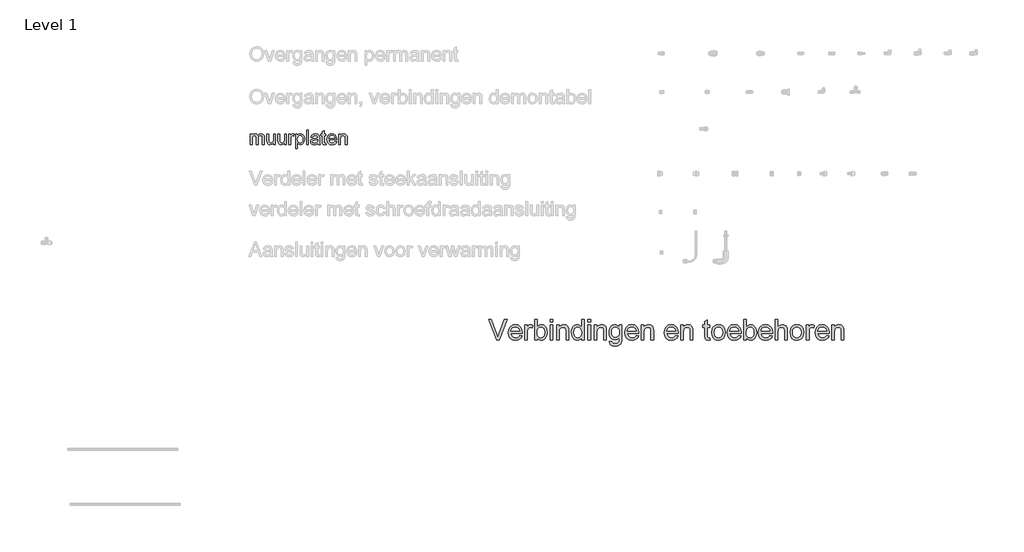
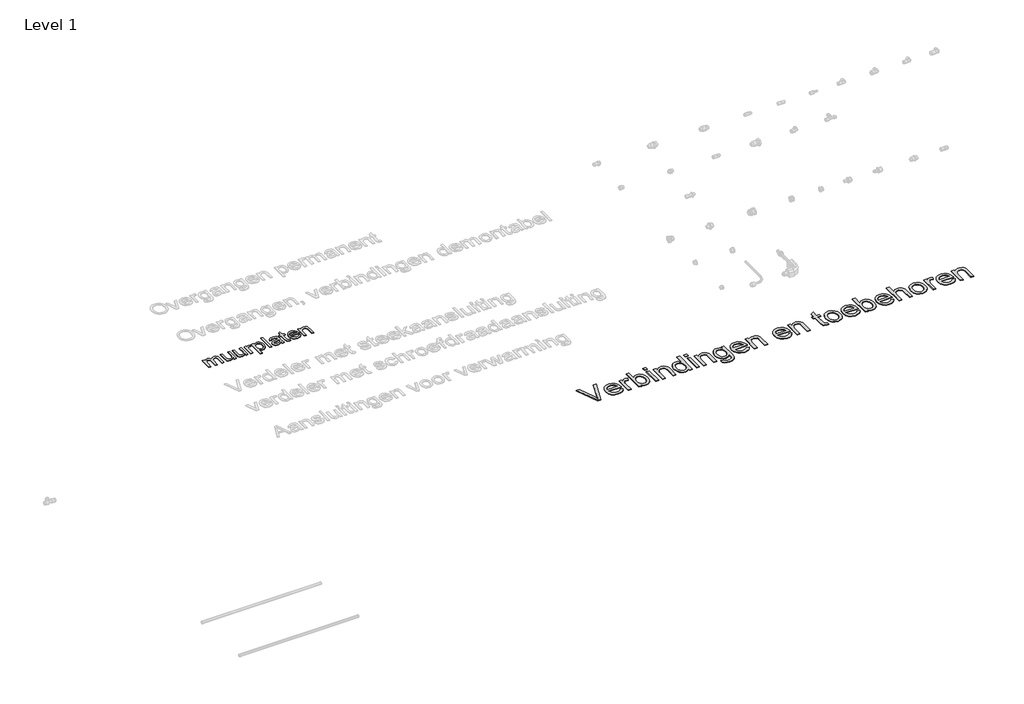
# One storey, part 5 of 9: 2 proxies.
"""IFC4 building model written with IfcOpenShell, lengths in millimetres."""

from ifc_helpers import new_model, si_unit, origin, origin_with_axes, place, context, project, spatial, polyline, outline, extrude, element, save

model = new_model("IFC4")

# Units and contexts
model_context = context("Model", 3, world=origin())
ifc_project = project(units=[si_unit("LENGTHUNIT", "METRE", prefix="MILLI")], contexts=[model_context])

# Site, building, storey
site = spatial("IfcSite", under=ifc_project)
building = spatial("IfcBuilding", under=site)
storey = spatial("IfcBuildingStorey", under=building, Name="Level 1", Elevation=0.0)

# Proxies
placement = place(None, origin())
element("IfcBuildingElementProxy", 1, Name="medium", ObjectType="medium", at=placement, inside=storey, context=model_context, shape_type="SweptSolid", body=[
    extrude(outline(polyline([(5878.7543239, 2853.1058024), (5798.8013036, 3054.0184227), (5825.6812147, 3054.0184227), (5879.1957823, 2909.2691204), (5890.0360384, 2876.6502501), (5900.7291418, 2909.2691204), (5954.3908621, 3054.0184227), (5981.2707732, 3054.0184227), (5904.7022673, 2853.1058024), (5878.7543239, 2853.1058024)])), origin_with_axes(), (0.0, 0.0, 1.0), 5.0),
    extrude(outline(polyline([(6104.7810217, 2897.0554381), (6129.40459, 2893.9161784), (6120.5325025, 2875.3626632), (6106.3751771, 2861.4935119), (6087.2514447, 2852.848285), (6063.4801364, 2849.9665428), (6034.0127886, 2854.9390811), (6011.338995, 2869.856696), (5996.8812326, 2893.7506315), (5992.0619784, 2925.6521319), (5996.9302835, 2958.6266214), (6011.5351987, 2983.2869778), (6033.902424, 2998.6644452), (6062.0576594, 3003.7902677), (6089.3361093, 2998.6767079), (6111.1331175, 2983.3360287), (6125.425333, 2958.7247233), (6130.1894049, 2925.7992847), (6130.0422521, 2919.030256), (6017.176056, 2919.030256), (6021.5231949, 2900.231486), (6031.6215556, 2886.4113857), (6046.195814, 2877.9133117), (6063.9706457, 2875.0806203), (6088.594214, 2880.3290701), (6097.7422129, 2887.134887), (6104.7810217, 2897.0554381)]), holes=[polyline([(6017.176056, 2944.1443335), (6105.0753273, 2944.1443335), (6101.6785503, 2957.4126108), (6095.0198861, 2966.9039663), (6080.3781827, 2975.7331342), (6061.9595575, 2978.6761901), (6045.0308544, 2976.3278767), (6031.0329444, 2969.2829365), (6021.3024657, 2958.301659), (6017.176056, 2944.1443335)])]), origin_with_axes(), (0.0, 0.0, 1.0), 5.0),
    extrude(outline(polyline([(6155.3034824, 2853.1058024), (6155.3034824, 3000.651008), (6177.2783003, 3000.651008), (6177.2783003, 2978.8233429), (6192.8764969, 2998.9342253), (6208.5727953, 3003.7902677), (6221.0807832, 3001.8527558), (6233.7849747, 2996.0402203), (6225.3972652, 2973.5258422), (6207.7389295, 2978.6761901), (6193.5386844, 2973.7220459), (6184.4887874, 2959.9877848), (6180.41756, 2930.655327), (6180.41756, 2853.1058024), (6155.3034824, 2853.1058024)])), origin_with_axes(), (0.0, 0.0, 1.0), 5.0),
    extrude(outline(polyline([(6274.5953507, 2853.1058024), (6249.4812732, 2853.1058024), (6249.4812732, 3054.0184227), (6274.5953507, 3054.0184227), (6274.5953507, 2979.510056), (6292.1801101, 2997.7202147), (6302.5727765, 3002.2727544), (6314.0323006, 3003.7902677), (6339.1954291, 2998.3210887), (6358.7177003, 2982.9436213), (6370.7106533, 2959.0312916), (6375.0516609, 2929.0856972), (6370.5573692, 2895.5593847), (6357.074494, 2870.6169854), (6337.2885741, 2855.1291534), (6313.8851478, 2849.9665428), (6302.0485446, 2851.6312088), (6291.5547107, 2856.6252069), (6282.4036461, 2864.948537), (6274.5953507, 2876.6011992), (6274.5953507, 2853.1058024)]), holes=[polyline([(6274.5953507, 2927.9084748), (6276.3121334, 2906.9637265), (6281.4624813, 2892.788007), (6294.620394, 2879.507467), (6311.7269068, 2875.0806203), (6326.2214574, 2878.3425073), (6338.6068179, 2888.1281684), (6347.104892, 2904.3762898), (6349.9375833, 2927.025558), (6347.2213879, 2950.00592), (6339.0728017, 2966.0701004), (6327.0737173, 2975.5246677), (6312.8060273, 2978.6761901), (6298.3114767, 2975.4143031), (6285.9261162, 2965.628642), (6277.4280421, 2949.6748262), (6274.5953507, 2927.9084748)])]), origin_with_axes(), (0.0, 0.0, 1.0), 5.0),
    extrude(outline(polyline([(6403.3049981, 3028.9043452), (6403.3049981, 3054.0184227), (6428.4190756, 3054.0184227), (6428.4190756, 3028.9043452), (6403.3049981, 3028.9043452)])), origin_with_axes(), (0.0, 0.0, 1.0), 5.0),
    extrude(outline(polyline([(6403.3049981, 2853.1058024), (6403.3049981, 3000.651008), (6428.4190756, 3000.651008), (6428.4190756, 2853.1058024), (6403.3049981, 2853.1058024)])), origin_with_axes(), (0.0, 0.0, 1.0), 5.0),
    extrude(outline(polyline([(6466.0901919, 2853.1058024), (6466.0901919, 3000.651008), (6491.2042695, 3000.651008), (6491.2042695, 2980.0496162), (6499.9292041, 2990.4361512), (6510.4077096, 2997.8551048), (6522.639786, 3002.306477), (6536.6254331, 3003.7902677), (6560.3415591, 2999.0078017), (6576.5283669, 2986.450763), (6584.0576851, 2967.9830868), (6585.3820602, 2943.7028751), (6585.3820602, 2853.1058024), (6560.2679827, 2853.1058024), (6560.2679827, 2940.3183608), (6557.3739777, 2962.5384333), (6547.1468582, 2974.2861317), (6529.9054554, 2978.6761901), (6515.1963069, 2976.2113808), (6502.6576623, 2968.8169527), (6494.0676177, 2954.5308685), (6491.2042695, 2931.391091), (6491.2042695, 2853.1058024), (6466.0901919, 2853.1058024)])), origin_with_axes(), (0.0, 0.0, 1.0), 5.0),
    extrude(outline(polyline([(6710.9524479, 2853.1058024), (6710.9524479, 2876.7974029), (6703.4384582, 2865.0589016), (6694.3364445, 2856.6742578), (6683.6464068, 2851.6434715), (6671.3683452, 2849.9665428), (6655.1324865, 2852.3945639), (6640.2700539, 2859.6786274), (6627.6884897, 2871.3098298), (6618.2952361, 2886.7792677), (6612.4459124, 2905.4615417), (6610.4961378, 2926.7312524), (6612.2926282, 2947.7373143), (6617.6820994, 2966.7077626), (6626.6584201, 2982.5634765), (6639.2154589, 2994.2253358), (6654.4028539, 3001.3990347), (6671.2702434, 3003.7902677), (6683.557502, 3002.0796164), (6694.4222836, 2996.9476626), (6710.9524479, 2979.1666995), (6710.9524479, 3054.0184227), (6736.0665255, 3054.0184227), (6736.0665255, 2853.1058024), (6710.9524479, 2853.1058024)]), holes=[polyline([(6635.6102153, 2926.8293543), (6638.4429067, 2904.1126411), (6646.9409808, 2887.9564901), (6659.2895531, 2878.2995877), (6673.6737391, 2875.0806203), (6688.0517937, 2878.1524349), (6700.0876663, 2887.3678789), (6708.2362525, 2902.8986305), (6710.9524479, 2924.9163679), (6708.1872016, 2948.9881131), (6699.8914626, 2965.677693), (6687.5490217, 2975.4265658), (6672.6436695, 2978.6761901), (6658.1123307, 2975.5553245), (6646.2052168, 2966.1927278), (6638.2589657, 2950.1101532), (6635.6102153, 2926.8293543)])]), origin_with_axes(), (0.0, 0.0, 1.0), 5.0),
    extrude(outline(polyline([(6773.7376418, 3028.9043452), (6773.7376418, 3054.0184227), (6798.8517193, 3054.0184227), (6798.8517193, 3028.9043452), (6773.7376418, 3028.9043452)])), origin_with_axes(), (0.0, 0.0, 1.0), 5.0),
    extrude(outline(polyline([(6773.7376418, 2853.1058024), (6773.7376418, 3000.651008), (6798.8517193, 3000.651008), (6798.8517193, 2853.1058024), (6773.7376418, 2853.1058024)])), origin_with_axes(), (0.0, 0.0, 1.0), 5.0),
    extrude(outline(polyline([(6836.5228356, 2853.1058024), (6836.5228356, 3000.651008), (6861.6369132, 3000.651008), (6861.6369132, 2980.0496162), (6870.3618478, 2990.4361512), (6880.8403533, 2997.8551048), (6893.0724296, 3002.306477), (6907.0580768, 3003.7902677), (6930.7742028, 2999.0078017), (6946.9610106, 2986.450763), (6954.4903287, 2967.9830868), (6955.8147039, 2943.7028751), (6955.8147039, 2853.1058024), (6930.7006264, 2853.1058024), (6930.7006264, 2940.3183608), (6927.8066214, 2962.5384333), (6917.5795019, 2974.2861317), (6900.338099, 2978.6761901), (6885.6289506, 2976.2113808), (6873.0903059, 2968.8169527), (6864.5002614, 2954.5308685), (6861.6369132, 2931.391091), (6861.6369132, 2853.1058024), (6836.5228356, 2853.1058024)])), origin_with_axes(), (0.0, 0.0, 1.0), 5.0),
    extrude(outline(polyline([(6984.0680411, 2840.5487637), (7009.1821187, 2837.409504), (7011.9534964, 2829.5613548), (7017.3245735, 2824.1657522), (7027.8827868, 2819.9718974), (7041.7028871, 2818.5739458), (7056.4426923, 2820.1558384), (7067.4055758, 2824.9015161), (7075.0084704, 2832.5044107), (7079.668309, 2842.6579538), (7081.3850916, 2871.9413606), (7063.7022304, 2857.814692), (7042.1443455, 2853.1058024), (7016.2515844, 2858.5872442), (6996.943911, 2875.0315694), (6984.9325638, 2899.1401028), (6980.9287815, 2927.6141692), (6982.7252719, 2947.8905985), (6988.1147431, 2966.5360843), (6996.9071228, 2982.336616), (7008.9123386, 2994.078183), (7023.7195889, 3001.3622465), (7040.9180721, 3003.7902677), (7063.3220856, 2998.2965632), (7081.3850916, 2981.8154498), (7081.3850916, 3000.651008), (7106.4991691, 3000.651008), (7106.4991691, 2873.2657358), (7104.7823865, 2843.8535703), (7099.6320386, 2824.4845832), (7090.7599511, 2811.6393702), (7077.8779499, 2801.7985268), (7061.2680778, 2795.5445329), (7041.2123777, 2793.4598683), (7017.8457397, 2796.3967929), (6999.4455085, 2805.2075667), (6987.6426279, 2819.9167151), (6984.0680411, 2840.5487637)]), holes=[polyline([(7006.042859, 2929.3309518), (7008.7222662, 2906.2954076), (7016.7604878, 2890.4580877), (7028.8454113, 2881.2794319), (7043.6649244, 2878.21988), (7058.3740728, 2881.2610378), (7070.52031, 2890.3845113), (7078.6688962, 2906.0194961), (7081.3850916, 2928.5951879), (7078.5891884, 2950.3676706), (7070.201479, 2966.045575), (7057.8774321, 2975.5185363), (7043.2725169, 2978.6761901), (7028.9312505, 2975.5675873), (7016.9076406, 2966.2417787), (7008.7590544, 2950.7968663), (7006.042859, 2929.3309518)])]), origin_with_axes(), (0.0, 0.0, 1.0), 5.0),
    extrude(outline(polyline([(7247.4715497, 2897.0554381), (7272.0951179, 2893.9161784), (7263.2230305, 2875.3626632), (7249.065705, 2861.4935119), (7229.9419726, 2852.848285), (7206.1706644, 2849.9665428), (7176.7033166, 2854.9390811), (7154.0295229, 2869.856696), (7139.5717605, 2893.7506315), (7134.7525064, 2925.6521319), (7139.6208114, 2958.6266214), (7154.2257267, 2983.2869778), (7176.592952, 2998.6644452), (7204.7481873, 3003.7902677), (7232.0266373, 2998.6767079), (7253.8236455, 2983.3360287), (7268.115861, 2958.7247233), (7272.8799328, 2925.7992847), (7272.73278, 2919.030256), (7159.8665839, 2919.030256), (7164.2137228, 2900.231486), (7174.3120836, 2886.4113857), (7188.886342, 2877.9133117), (7206.6611737, 2875.0806203), (7231.2847419, 2880.3290701), (7240.4327409, 2887.134887), (7247.4715497, 2897.0554381)]), holes=[polyline([(7159.8665839, 2944.1443335), (7247.7658553, 2944.1443335), (7244.3690782, 2957.4126108), (7237.7104141, 2966.9039663), (7223.0687107, 2975.7331342), (7204.6500855, 2978.6761901), (7187.7213823, 2976.3278767), (7173.7234724, 2969.2829365), (7163.9929936, 2958.301659), (7159.8665839, 2944.1443335)])]), origin_with_axes(), (0.0, 0.0, 1.0), 5.0),
    extrude(outline(polyline([(7297.9940104, 2853.1058024), (7297.9940104, 3000.651008), (7323.1080879, 3000.651008), (7323.1080879, 2980.0496162), (7331.8330226, 2990.4361512), (7342.3115281, 2997.8551048), (7354.5436044, 3002.306477), (7368.5292516, 3003.7902677), (7392.2453775, 2999.0078017), (7408.4321853, 2986.450763), (7415.9615035, 2967.9830868), (7417.2858787, 2943.7028751), (7417.2858787, 2853.1058024), (7392.1718011, 2853.1058024), (7392.1718011, 2940.3183608), (7389.2777961, 2962.5384333), (7379.0506766, 2974.2861317), (7361.8092738, 2978.6761901), (7347.1001254, 2976.2113808), (7334.5614807, 2968.8169527), (7325.9714361, 2954.5308685), (7323.1080879, 2931.391091), (7323.1080879, 2853.1058024), (7297.9940104, 2853.1058024)])), origin_with_axes(), (0.0, 0.0, 1.0), 5.0),
    extrude(outline(polyline([(7633.6004918, 2897.0554381), (7658.22406, 2893.9161784), (7649.3519726, 2875.3626632), (7635.1946471, 2861.4935119), (7616.0709148, 2852.848285), (7592.2996065, 2849.9665428), (7562.8322587, 2854.9390811), (7540.1584651, 2869.856696), (7525.7007026, 2893.7506315), (7520.8814485, 2925.6521319), (7525.7497536, 2958.6266214), (7540.3546688, 2983.2869778), (7562.7218941, 2998.6644452), (7590.8771295, 3003.7902677), (7618.1555794, 2998.6767079), (7639.9525876, 2983.3360287), (7654.2448031, 2958.7247233), (7659.008875, 2925.7992847), (7658.8617222, 2919.030256), (7545.995526, 2919.030256), (7550.342665, 2900.231486), (7560.4410257, 2886.4113857), (7575.0152841, 2877.9133117), (7592.7901158, 2875.0806203), (7617.413684, 2880.3290701), (7626.561683, 2887.134887), (7633.6004918, 2897.0554381)]), holes=[polyline([(7545.995526, 2944.1443335), (7633.8947974, 2944.1443335), (7630.4980203, 2957.4126108), (7623.8393562, 2966.9039663), (7609.1976528, 2975.7331342), (7590.7790276, 2978.6761901), (7573.8503245, 2976.3278767), (7559.8524145, 2969.2829365), (7550.1219358, 2958.301659), (7545.995526, 2944.1443335)])]), origin_with_axes(), (0.0, 0.0, 1.0), 5.0),
    extrude(outline(polyline([(7684.1229525, 2853.1058024), (7684.1229525, 3000.651008), (7709.23703, 3000.651008), (7709.23703, 2980.0496162), (7717.9619647, 2990.4361512), (7728.4404702, 2997.8551048), (7740.6725465, 3002.306477), (7754.6581937, 3003.7902677), (7778.3743197, 2999.0078017), (7794.5611275, 2986.450763), (7802.0904456, 2967.9830868), (7803.4148208, 2943.7028751), (7803.4148208, 2853.1058024), (7778.3007433, 2853.1058024), (7778.3007433, 2940.3183608), (7775.4067382, 2962.5384333), (7765.1796188, 2974.2861317), (7747.9382159, 2978.6761901), (7733.2290675, 2976.2113808), (7720.6904228, 2968.8169527), (7712.1003782, 2954.5308685), (7709.23703, 2931.391091), (7709.23703, 2853.1058024), (7684.1229525, 2853.1058024)])), origin_with_axes(), (0.0, 0.0, 1.0), 5.0),
    extrude(outline(polyline([(7969.7955845, 2874.0505507), (7972.9348442, 2852.3700385), (7954.148337, 2849.9665428), (7933.1054868, 2854.135872), (7922.6085872, 2865.07423), (7919.5674294, 2893.5728219), (7919.5674294, 2975.5369304), (7900.7318713, 2975.5369304), (7900.7318713, 3000.651008), (7919.5674294, 3000.651008), (7919.5674294, 3036.5072398), (7944.681507, 3051.2715705), (7944.681507, 3000.651008), (7969.7955845, 3000.651008), (7969.7955845, 2975.5369304), (7944.681507, 2975.5369304), (7944.681507, 2894.3085859), (7946.0058821, 2881.3591397), (7950.2978387, 2876.7728775), (7958.8572265, 2875.0806203), (7969.7955845, 2874.0505507)])), origin_with_axes(), (0.0, 0.0, 1.0), 5.0),
    extrude(outline(polyline([(7988.6311426, 2926.8784052), (7994.0635334, 2962.4525941), (8000.8540219, 2976.2757601), (8010.3607058, 2987.4563071), (8030.4961137, 2999.7067775), (8054.6046471, 3003.7902677), (8080.9879175, 2998.8177294), (8102.0614245, 2983.9001145), (8115.8753934, 2960.2146453), (8120.4800497, 2928.9385444), (8118.444436, 2903.5669494), (8112.3375949, 2884.2531447), (8102.337336, 2869.7892509), (8088.6214689, 2858.9673889), (8072.3304279, 2852.2167543), (8054.6046471, 2849.9665428), (8027.9025456, 2854.920687), (8006.8535641, 2869.7831196), (7993.186748, 2893.9652294), (7988.6311426, 2926.8784052)]), holes=[polyline([(8013.7452202, 2926.9274561), (8016.6514879, 2904.1984802), (8025.3702912, 2888.0055411), (8038.4914157, 2878.3118505), (8054.6046471, 2875.0806203), (8070.6443021, 2878.3302446), (8083.7409011, 2888.0791175), (8092.4597044, 2904.4866544), (8095.3659722, 2927.7122711), (8092.4413103, 2949.7790594), (8083.6673247, 2965.7512694), (8070.5523316, 2975.4449599), (8054.6046471, 2978.6761901), (8038.4914157, 2975.4572227), (8025.3702912, 2965.8003203), (8016.6514879, 2949.6441693), (8013.7452202, 2926.9274561)])]), origin_with_axes(), (0.0, 0.0, 1.0), 5.0),
    extrude(outline(polyline([(8252.0346512, 2897.0554381), (8276.6582194, 2893.9161784), (8267.786132, 2875.3626632), (8253.6288065, 2861.4935119), (8234.5050741, 2852.848285), (8210.7337659, 2849.9665428), (8181.2664181, 2854.9390811), (8158.5926244, 2869.856696), (8144.134862, 2893.7506315), (8139.3156079, 2925.6521319), (8144.1839129, 2958.6266214), (8158.7888281, 2983.2869778), (8181.1560535, 2998.6644452), (8209.3112888, 3003.7902677), (8236.5897388, 2998.6767079), (8258.386747, 2983.3360287), (8272.6789625, 2958.7247233), (8277.4430343, 2925.7992847), (8277.2958815, 2919.030256), (8164.4296854, 2919.030256), (8168.7768243, 2900.231486), (8178.8751851, 2886.4113857), (8193.4494435, 2877.9133117), (8211.2242752, 2875.0806203), (8235.8478434, 2880.3290701), (8244.9958424, 2887.134887), (8252.0346512, 2897.0554381)]), holes=[polyline([(8164.4296854, 2944.1443335), (8252.3289568, 2944.1443335), (8248.9321797, 2957.4126108), (8242.2735156, 2966.9039663), (8227.6318122, 2975.7331342), (8209.213187, 2978.6761901), (8192.2844838, 2976.3278767), (8178.2865739, 2969.2829365), (8168.5560951, 2958.301659), (8164.4296854, 2944.1443335)])]), origin_with_axes(), (0.0, 0.0, 1.0), 5.0),
    extrude(outline(polyline([(8327.6711894, 2853.1058024), (8302.5571119, 2853.1058024), (8302.5571119, 3054.0184227), (8327.6711894, 3054.0184227), (8327.6711894, 2979.510056), (8345.2559488, 2997.7202147), (8355.6486151, 3002.2727544), (8367.1081393, 3003.7902677), (8392.2712678, 2998.3210887), (8411.793539, 2982.9436213), (8423.786492, 2959.0312916), (8428.1274996, 2929.0856972), (8423.6332078, 2895.5593847), (8410.1503327, 2870.6169854), (8390.3644127, 2855.1291534), (8366.9609865, 2849.9665428), (8355.1243833, 2851.6312088), (8344.6305494, 2856.6252069), (8335.4794847, 2864.948537), (8327.6711894, 2876.6011992), (8327.6711894, 2853.1058024)]), holes=[polyline([(8327.6711894, 2927.9084748), (8329.387972, 2906.9637265), (8334.53832, 2892.788007), (8347.6962327, 2879.507467), (8364.8027454, 2875.0806203), (8379.2972961, 2878.3425073), (8391.6826566, 2888.1281684), (8400.1807306, 2904.3762898), (8403.013422, 2927.025558), (8400.2972266, 2950.00592), (8392.1486404, 2966.0701004), (8380.149556, 2975.5246677), (8365.881866, 2978.6761901), (8351.3873154, 2975.4143031), (8339.0019549, 2965.628642), (8330.5038808, 2949.6748262), (8327.6711894, 2927.9084748)])]), origin_with_axes(), (0.0, 0.0, 1.0), 5.0),
    extrude(outline(polyline([(8559.682101, 2897.0554381), (8584.3056692, 2893.9161784), (8575.4335818, 2875.3626632), (8561.2762563, 2861.4935119), (8542.152524, 2852.848285), (8518.3812157, 2849.9665428), (8488.9138679, 2854.9390811), (8466.2400743, 2869.856696), (8451.7823118, 2893.7506315), (8446.9630577, 2925.6521319), (8451.8313628, 2958.6266214), (8466.436278, 2983.2869778), (8488.8035033, 2998.6644452), (8516.9587387, 3003.7902677), (8544.2371886, 2998.6767079), (8566.0341968, 2983.3360287), (8580.3264123, 2958.7247233), (8585.0904842, 2925.7992847), (8584.9433314, 2919.030256), (8472.0771352, 2919.030256), (8476.4242742, 2900.231486), (8486.5226349, 2886.4113857), (8501.0968933, 2877.9133117), (8518.871725, 2875.0806203), (8543.4952932, 2880.3290701), (8552.6432922, 2887.134887), (8559.682101, 2897.0554381)]), holes=[polyline([(8472.0771352, 2944.1443335), (8559.9764066, 2944.1443335), (8556.5796295, 2957.4126108), (8549.9209654, 2966.9039663), (8535.279262, 2975.7331342), (8516.8606368, 2978.6761901), (8499.9319336, 2976.3278767), (8485.9340237, 2969.2829365), (8476.203545, 2958.301659), (8472.0771352, 2944.1443335)])]), origin_with_axes(), (0.0, 0.0, 1.0), 5.0),
    extrude(outline(polyline([(8610.2045617, 2853.1058024), (8610.2045617, 3054.0184227), (8635.3186392, 3054.0184227), (8635.3186392, 2980.1477181), (8654.9022241, 2997.8796303), (8679.0230203, 3003.7902677), (8694.1920212, 3002.1777183), (8707.2273066, 2997.34007), (8717.4912142, 2989.6574677), (8724.3460821, 2979.510056), (8728.208843, 2965.5673284), (8729.49643, 2946.4987783), (8729.49643, 2853.1058024), (8704.3823525, 2853.1058024), (8704.3823525, 2943.8990789), (8702.383527, 2959.6199028), (8696.3870504, 2970.3865825), (8686.7240167, 2976.6037882), (8673.7255195, 2978.6761901), (8653.1486533, 2973.0843838), (8644.8958338, 2966.4992961), (8639.4143921, 2957.9276456), (8635.3186392, 2931.4891929), (8635.3186392, 2853.1058024), (8610.2045617, 2853.1058024)])), origin_with_axes(), (0.0, 0.0, 1.0), 5.0),
    extrude(outline(polyline([(8757.7497672, 2926.8784052), (8763.182158, 2962.4525941), (8769.9726465, 2976.2757601), (8779.4793304, 2987.4563071), (8799.6147383, 2999.7067775), (8823.7232717, 3003.7902677), (8850.1065421, 2998.8177294), (8871.1800491, 2983.9001145), (8884.994018, 2960.2146453), (8889.5986743, 2928.9385444), (8887.5630606, 2903.5669494), (8881.4562195, 2884.2531447), (8871.4559606, 2869.7892509), (8857.7400935, 2858.9673889), (8841.4490525, 2852.2167543), (8823.7232717, 2849.9665428), (8797.0211702, 2854.920687), (8775.9721887, 2869.7831196), (8762.3053726, 2893.9652294), (8757.7497672, 2926.8784052)]), holes=[polyline([(8782.8638448, 2926.9274561), (8785.7701125, 2904.1984802), (8794.4889158, 2888.0055411), (8807.6100403, 2878.3118505), (8823.7232717, 2875.0806203), (8839.7629267, 2878.3302446), (8852.8595257, 2888.0791175), (8861.578329, 2904.4866544), (8864.4845968, 2927.7122711), (8861.5599349, 2949.7790594), (8852.7859493, 2965.7512694), (8839.6709562, 2975.4449599), (8823.7232717, 2978.6761901), (8807.6100403, 2975.4572227), (8794.4889158, 2965.8003203), (8785.7701125, 2949.6441693), (8782.8638448, 2926.9274561)])]), origin_with_axes(), (0.0, 0.0, 1.0), 5.0),
    extrude(outline(polyline([(8917.8520115, 2853.1058024), (8917.8520115, 3000.651008), (8939.8268294, 3000.651008), (8939.8268294, 2978.8233429), (8955.425026, 2998.9342253), (8971.1213244, 3003.7902677), (8983.6293123, 3001.8527558), (8996.3335038, 2996.0402203), (8987.9457943, 2973.5258422), (8970.2874586, 2978.6761901), (8956.0872136, 2973.7220459), (8947.0373165, 2959.9877848), (8942.9660891, 2930.655327), (8942.9660891, 2853.1058024), (8917.8520115, 2853.1058024)])), origin_with_axes(), (0.0, 0.0, 1.0), 5.0),
    extrude(outline(polyline([(9115.3310665, 2897.0554381), (9139.9546348, 2893.9161784), (9131.0825473, 2875.3626632), (9116.9252219, 2861.4935119), (9097.8014895, 2852.848285), (9074.0301812, 2849.9665428), (9044.5628334, 2854.9390811), (9021.8890398, 2869.856696), (9007.4312774, 2893.7506315), (9002.6120232, 2925.6521319), (9007.4803283, 2958.6266214), (9022.0852435, 2983.2869778), (9044.4524688, 2998.6644452), (9072.6077042, 3003.7902677), (9099.8861541, 2998.6767079), (9121.6831623, 2983.3360287), (9135.9753778, 2958.7247233), (9140.7394497, 2925.7992847), (9140.5922969, 2919.030256), (9027.7261008, 2919.030256), (9032.0732397, 2900.231486), (9042.1716004, 2886.4113857), (9056.7458588, 2877.9133117), (9074.5206905, 2875.0806203), (9099.1442588, 2880.3290701), (9108.2922577, 2887.134887), (9115.3310665, 2897.0554381)]), holes=[polyline([(9027.7261008, 2944.1443335), (9115.6253721, 2944.1443335), (9112.228595, 2957.4126108), (9105.5699309, 2966.9039663), (9090.9282275, 2975.7331342), (9072.5096023, 2978.6761901), (9055.5808992, 2976.3278767), (9041.5829892, 2969.2829365), (9031.8525105, 2958.301659), (9027.7261008, 2944.1443335)])]), origin_with_axes(), (0.0, 0.0, 1.0), 5.0),
    extrude(outline(polyline([(9165.8535272, 2853.1058024), (9165.8535272, 3000.651008), (9190.9676047, 3000.651008), (9190.9676047, 2980.0496162), (9199.6925394, 2990.4361512), (9210.1710449, 2997.8551048), (9222.4031212, 3002.306477), (9236.3887684, 3003.7902677), (9260.1048944, 2999.0078017), (9276.2917022, 2986.450763), (9283.8210203, 2967.9830868), (9285.1453955, 2943.7028751), (9285.1453955, 2853.1058024), (9260.031318, 2853.1058024), (9260.031318, 2940.3183608), (9257.1373129, 2962.5384333), (9246.9101935, 2974.2861317), (9229.6687906, 2978.6761901), (9214.9596422, 2976.2113808), (9202.4209975, 2968.8169527), (9193.8309529, 2954.5308685), (9190.9676047, 2931.391091), (9190.9676047, 2853.1058024), (9165.8535272, 2853.1058024)])), origin_with_axes(), (0.0, 0.0, 1.0), 5.0),
])
element("IfcBuildingElementProxy", 2, Name="small", ObjectType="small", at=placement, inside=storey, context=model_context, shape_type="SweptSolid", body=[
    extrude(outline(polyline([(3460.9935013, 4772.8496905), (3460.9935013, 4876.1313344), (3478.5733555, 4876.1313344), (3478.5733555, 4859.1351862), (3490.6595054, 4873.0582934), (3507.8616675, 4878.3288161), (3525.4758574, 4872.9552865), (3535.1585115, 4857.8991027), (3548.8756048, 4873.2213878), (3566.1979417, 4878.3288161), (3579.4128761, 4876.2042976), (3589.1856613, 4869.830742), (3595.2244443, 4859.0364712), (3597.2373719, 4843.6498067), (3597.2373719, 4772.8496905), (3579.6575176, 4772.8496905), (3579.6575176, 4836.0959631), (3578.0265741, 4850.7744547), (3572.1208418, 4858.0021096), (3562.0776634, 4860.7489619), (3552.5538116, 4858.9892596), (3544.7896621, 4853.710153), (3539.6264383, 4844.5511176), (3537.9053637, 4831.1516291), (3537.9053637, 4772.8496905), (3520.3255095, 4772.8496905), (3520.3255095, 4838.0530953), (3516.2567346, 4855.0835791), (3510.8874969, 4859.3326162), (3502.9173334, 4860.7489619), (3489.904121, 4856.97204), (3481.2515365, 4845.9159598), (3478.5733555, 4824.9368759), (3478.5733555, 4772.8496905), (3460.9935013, 4772.8496905)])), origin_with_axes(), (0.0, 0.0, 1.0), 5.0),
    extrude(outline(polyline([(3689.5316069, 4772.8496905), (3689.5316069, 4790.601223), (3675.7630101, 4775.6394623), (3657.8054636, 4770.6522087), (3641.2728467, 4774.1544453), (3629.87341, 4782.9443724), (3624.6372229, 4795.8889136), (3623.6071533, 4812.2326843), (3623.6071533, 4876.1313344), (3641.1870076, 4876.1313344), (3641.1870076, 4820.5075767), (3642.2514128, 4802.5843659), (3649.2043826, 4792.0604883), (3662.3034341, 4788.232063), (3676.9819257, 4792.1463274), (3686.6817477, 4802.8075476), (3689.5316069, 4822.3960376), (3689.5316069, 4876.1313344), (3707.1114611, 4876.1313344), (3707.1114611, 4772.8496905), (3689.5316069, 4772.8496905)])), origin_with_axes(), (0.0, 0.0, 1.0), 5.0),
    extrude(outline(polyline([(3797.2082143, 4772.8496905), (3797.2082143, 4790.601223), (3783.4396175, 4775.6394623), (3765.482071, 4770.6522087), (3748.9494542, 4774.1544453), (3737.5500174, 4782.9443724), (3732.3138304, 4795.8889136), (3731.2837608, 4812.2326843), (3731.2837608, 4876.1313344), (3748.863615, 4876.1313344), (3748.863615, 4820.5075767), (3749.9280203, 4802.5843659), (3756.88099, 4792.0604883), (3769.9800416, 4788.232063), (3784.6585332, 4792.1463274), (3794.3583551, 4802.8075476), (3797.2082143, 4822.3960376), (3797.2082143, 4876.1313344), (3814.7880686, 4876.1313344), (3814.7880686, 4772.8496905), (3797.2082143, 4772.8496905)])), origin_with_axes(), (0.0, 0.0, 1.0), 5.0),
    extrude(outline(polyline([(3838.9603682, 4772.8496905), (3838.9603682, 4876.1313344), (3854.3427407, 4876.1313344), (3854.3427407, 4860.8519688), (3865.2614783, 4874.9295865), (3876.2488872, 4878.3288161), (3893.8974128, 4872.903783), (3888.0260162, 4857.1437183), (3875.6651811, 4860.7489619), (3865.7250096, 4857.2810609), (3859.3900817, 4847.6670781), (3856.5402225, 4827.1343577), (3856.5402225, 4772.8496905), (3838.9603682, 4772.8496905)])), origin_with_axes(), (0.0, 0.0, 1.0), 5.0),
    extrude(outline(polyline([(3904.8848217, 4733.2950184), (3904.8848217, 4876.1313344), (3922.464676, 4876.1313344), (3922.464676, 4858.8948366), (3934.6194971, 4873.4703213), (3951.0319392, 4878.3288161), (3962.920659, 4876.6292013), (3973.3157779, 4871.5303569), (3981.7795164, 4863.3413037), (3987.8740948, 4852.3710626), (3992.7840931, 4825.2802324), (3987.2388852, 4796.7988084), (3980.4404259, 4785.6225534), (3971.135464, 4777.3991645), (3960.2982735, 4772.3389476), (3948.9031287, 4770.6522087), (3933.6065954, 4775.167347), (3922.464676, 4786.5839516), (3922.464676, 4733.2950184), (3904.8848217, 4733.2950184)]), holes=[polyline([(3922.464676, 4823.6664567), (3924.3660128, 4807.9063921), (3930.0700231, 4796.8846475), (3938.48655, 4790.3952091), (3948.5254366, 4788.232063), (3958.7274174, 4790.4724643), (3967.3585422, 4797.1936684), (3973.2428147, 4808.6188569), (3975.2042389, 4824.9712116), (3973.2900262, 4840.6454371), (3967.5473883, 4851.8216921), (3959.1437372, 4858.5171444), (3949.2464853, 4860.7489619), (3939.3106057, 4858.3755099), (3930.5850579, 4851.2551538), (3924.4947715, 4839.6110756), (3922.464676, 4823.6664567)])]), origin_with_axes(), (0.0, 0.0, 1.0), 5.0),
    extrude(outline(polyline([(4012.5614292, 4772.8496905), (4012.5614292, 4913.4885247), (4030.1412835, 4913.4885247), (4030.1412835, 4772.8496905), (4012.5614292, 4772.8496905)])), origin_with_axes(), (0.0, 0.0, 1.0), 5.0),
    extrude(outline(polyline([(4122.4355184, 4786.0345812), (4105.3878668, 4774.1201096), (4086.5547612, 4770.6522087), (4071.8633937, 4772.7380996), (4061.0262032, 4778.9957723), (4054.3436268, 4788.4981643), (4052.1161013, 4800.3182128), (4055.4809953, 4814.2241522), (4064.3224259, 4824.3188342), (4076.6317575, 4830.0872238), (4091.8424517, 4832.7310691), (4122.3325115, 4838.774144), (4122.4355184, 4842.6884084), (4121.2251867, 4850.5341051), (4117.5941914, 4855.6672852), (4109.4738095, 4859.4785427), (4098.1602118, 4860.7489619), (4080.3743436, 4857.3669001), (4071.8934374, 4845.3665894), (4054.3135831, 4847.5640712), (4061.9189302, 4864.7318976), (4077.2326314, 4874.7922439), (4100.4263649, 4878.3288161), (4121.7316375, 4875.2042717), (4133.7662839, 4867.358575), (4139.1569814, 4855.4269357), (4140.0153727, 4840.0445632), (4140.0153727, 4818.1727523), (4140.9080997, 4787.631189), (4144.4103363, 4772.8496905), (4126.830482, 4772.8496905), (4122.4355184, 4786.0345812)]), holes=[polyline([(4122.4355184, 4821.1942897), (4094.0742691, 4815.8035922), (4078.949414, 4812.953733), (4072.0994513, 4808.3184199), (4069.6959556, 4801.5542963), (4074.9321427, 4792.0433204), (4090.2973473, 4788.232063), (4108.0832155, 4792.4381804), (4119.5513236, 4802.6187015), (4122.3325115, 4816.2156201), (4122.4355184, 4821.1942897)])]), origin_with_axes(), (0.0, 0.0, 1.0), 5.0),
    extrude(outline(polyline([(4201.5448627, 4787.5110143), (4203.7423444, 4772.3346557), (4190.5917894, 4770.6522087), (4175.8617943, 4773.5707392), (4168.5139646, 4781.2275898), (4166.3851541, 4801.1766041), (4166.3851541, 4858.5514801), (4153.2002634, 4858.5514801), (4153.2002634, 4876.1313344), (4166.3851541, 4876.1313344), (4166.3851541, 4901.2306966), (4183.9650084, 4911.5657281), (4183.9650084, 4876.1313344), (4201.5448627, 4876.1313344), (4201.5448627, 4858.5514801), (4183.9650084, 4858.5514801), (4183.9650084, 4801.6916389), (4184.892071, 4792.6270265), (4187.8964406, 4789.416643), (4193.8880121, 4788.232063), (4201.5448627, 4787.5110143)])), origin_with_axes(), (0.0, 0.0, 1.0), 5.0),
    extrude(outline(polyline([(4291.4356019, 4803.6144355), (4308.6720997, 4801.4169537), (4302.4616384, 4788.429493), (4292.5515106, 4778.7210871), (4279.164898, 4772.6694283), (4262.5249822, 4770.6522087), (4241.8978387, 4774.1329855), (4226.0261832, 4784.5753159), (4215.9057495, 4801.3010708), (4212.5322716, 4823.6321211), (4215.9400851, 4846.7142637), (4226.1635258, 4863.9765132), (4241.8205835, 4874.7407404), (4261.5292482, 4878.3288161), (4280.6241632, 4874.7493243), (4295.882069, 4864.0108489), (4305.8866198, 4846.782935), (4309.2214701, 4823.7351281), (4309.1184631, 4818.996808), (4230.1121259, 4818.996808), (4233.1551231, 4805.837669), (4240.2239756, 4796.1635988), (4250.4259565, 4790.2149469), (4262.8683387, 4788.232063), (4280.1048365, 4791.9059778), (4291.4356019, 4803.6144355)]), holes=[polyline([(4230.1121259, 4836.5766622), (4291.6416158, 4836.5766622), (4284.602807, 4852.5084052), (4274.3536146, 4858.6888227), (4261.4605769, 4860.7489619), (4249.6104847, 4859.1051425), (4239.8119478, 4854.1736843), (4233.0006127, 4846.48679), (4230.1121259, 4836.5766622)])]), origin_with_axes(), (0.0, 0.0, 1.0), 5.0),
    extrude(outline(polyline([(4326.8013244, 4772.8496905), (4326.8013244, 4876.1313344), (4344.3811787, 4876.1313344), (4344.3811787, 4861.7103601), (4357.8235868, 4874.1742021), (4376.1759932, 4878.3288161), (4392.7772814, 4874.98109), (4404.1080468, 4866.1911628), (4409.3785696, 4853.2637895), (4410.3056322, 4836.2676414), (4410.3056322, 4772.8496905), (4392.7257779, 4772.8496905), (4392.7257779, 4833.8984813), (4390.6999744, 4849.4525321), (4383.5409908, 4857.6759209), (4371.4720088, 4860.7489619), (4361.1756049, 4859.0235953), (4352.3985536, 4853.8474956), (4346.3855224, 4843.8472367), (4344.3811787, 4827.6493925), (4344.3811787, 4772.8496905), (4326.8013244, 4772.8496905)])), origin_with_axes(), (0.0, 0.0, 1.0), 5.0),
])

save(model, "model.ifc")
